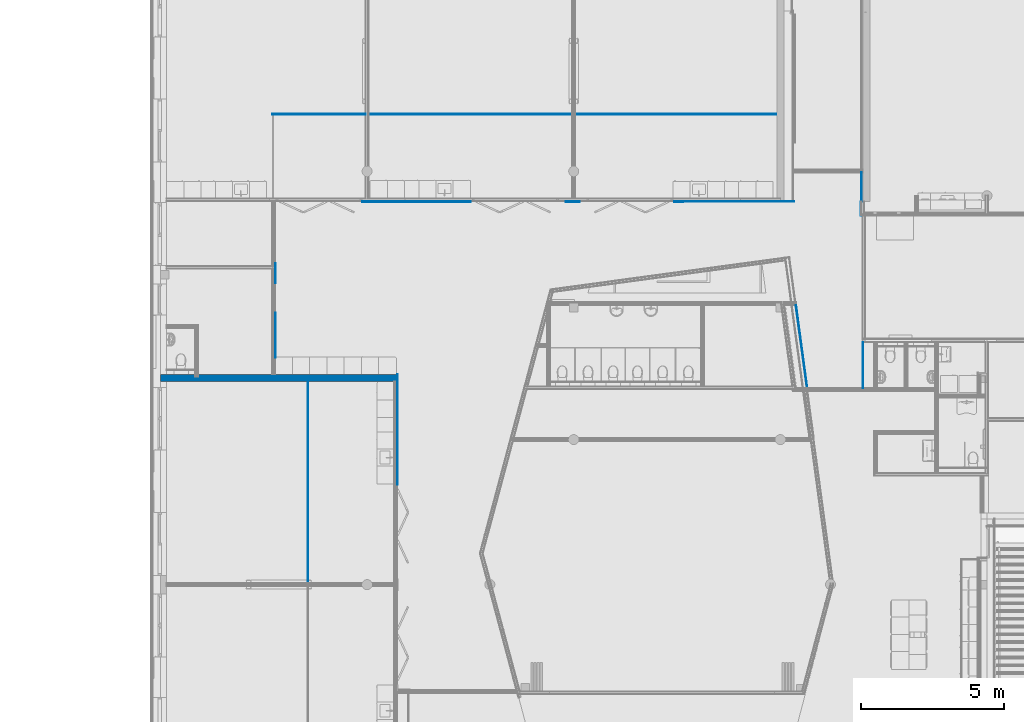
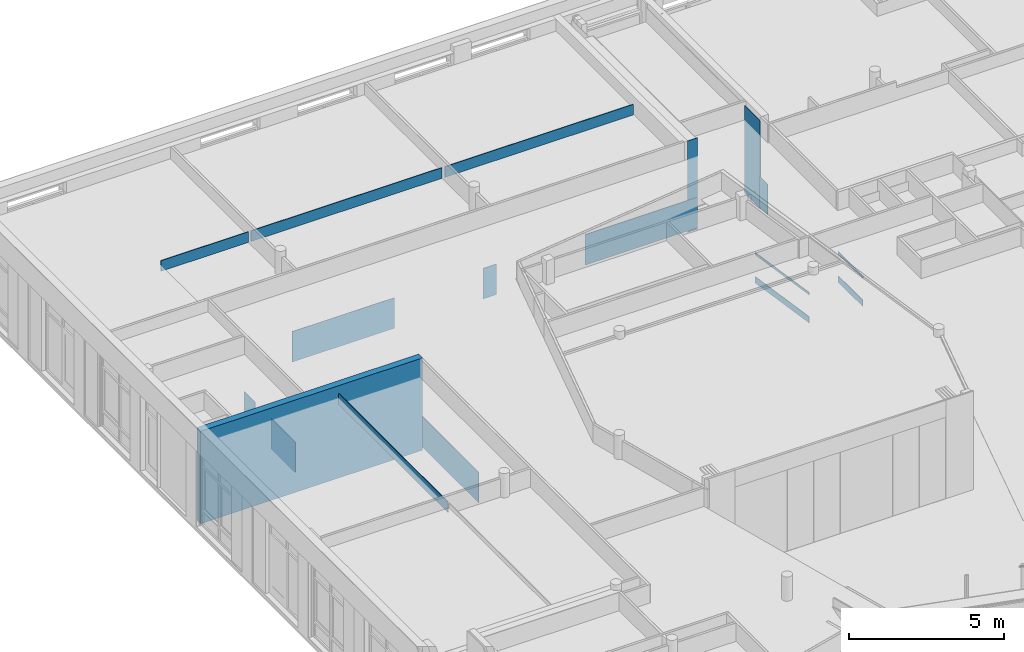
# One storey, part 17 of 167: 18 walls.
"""IFC2X3 building model written with IfcOpenShell, lengths in millimetres."""

from ifc_helpers import new_model, entity, si_unit, converted_unit, derived_unit, money_unit, direction, frame, origin_with_axes, place, context, subcontext, project, spatial, faceted_brep, material, type_object, element, save


model = new_model("IFC2X3")

# Units and contexts
model_context = context("Model", 3, precision=0.01, world=origin_with_axes(), true_north=direction((0.0, 1.0)))
plan_context = context("Plan", 3, precision=0.01, world=origin_with_axes(), true_north=direction((0.0, 1.0)))
body_context = subcontext(model_context, "Body", "Model", "MODEL_VIEW")
ifc_project = project(units=[si_unit("LENGTHUNIT", "METRE", prefix="MILLI"), si_unit("AREAUNIT", "SQUARE_METRE"), si_unit("VOLUMEUNIT", "CUBIC_METRE"), converted_unit("PLANEANGLEUNIT", "DEGREE", entity("IfcPlaneAngleMeasure", 0.0174532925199), si_unit("PLANEANGLEUNIT", "RADIAN"), dimensions=[0, 0, 0, 0, 0, 0, 0]), si_unit("SOLIDANGLEUNIT", "STERADIAN"), money_unit("EUR"), converted_unit("TIMEUNIT", "Year", entity("IfcTimeMeasure", 31556926.0), si_unit("TIMEUNIT", "SECOND"), dimensions=[0, 0, 1, 0, 0, 0, 0]), si_unit("MASSUNIT", "GRAM", prefix="KILO"), si_unit("THERMODYNAMICTEMPERATUREUNIT", "DEGREE_CELSIUS"), si_unit("LUMINOUSINTENSITYUNIT", "LUMEN"), si_unit("ENERGYUNIT", "JOULE", prefix="MEGA"), derived_unit("THERMALCONDUCTANCEUNIT", [(si_unit("POWERUNIT", "WATT"), 1), (si_unit("LENGTHUNIT", "METRE"), -1), (si_unit("THERMODYNAMICTEMPERATUREUNIT", "KELVIN"), -1)]), derived_unit("SPECIFICHEATCAPACITYUNIT", [(si_unit("ENERGYUNIT", "JOULE"), 1), (si_unit("MASSUNIT", "GRAM", prefix="KILO"), -1), (si_unit("THERMODYNAMICTEMPERATUREUNIT", "KELVIN"), -1)]), derived_unit("MASSDENSITYUNIT", [(si_unit("MASSUNIT", "GRAM", prefix="KILO"), 1), (si_unit("VOLUMEUNIT", "CUBIC_METRE"), -1)])], contexts=[model_context, plan_context])

# Site, building, storey
site_placement = place(None, origin_with_axes())
site = spatial("IfcSite", under=ifc_project, at=site_placement, Name="Site", CompositionType="ELEMENT")
building_placement = place(site_placement, origin_with_axes())
building = spatial("IfcBuilding", under=site, at=building_placement, Name="Naam gebouw", CompositionType="ELEMENT")
storey_placement = place(building_placement, origin_with_axes())
storey = spatial("IfcBuildingStorey", under=building, at=storey_placement, Name="Begane grond", CompositionType="ELEMENT", Elevation=0.0)

# Walls
ifc_material_1 = material(Name="_TenW_21_Hout betimmering")
wall_type_1 = type_object("IfcWallType", Name="_TenW_22_Spouwmuur ht-150-kz RC 0 60", PredefinedType="NOTDEFINED")
wall_1_placement = place(storey_placement, frame((24475.0000092, 43200.0, -100.0), z_axis=(0.0, 0.0, 1.0), x_axis=(0.0, -1.0, 0.0)))
element("IfcWall", 1, at=wall_1_placement, inside=storey, type_object=wall_type_1, material=ifc_material_1, Name="21_Wand_Wand-x", context=body_context, shape_type="Brep", body=[
    faceted_brep([(1060.1483593, -40.0, 3480.00000224), (1060.1483593, -40.0, 30.0), (37.4999998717, -40.0, 30.0), (37.4999998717, -40.0, 3480.00000224), (1060.1483593, -60.0, 3480.00000224), (1060.1483593, -60.0, 30.0), (37.4999998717, -60.0, 30.0), (37.4999998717, -60.0, 3480.00000224)], [[[0, 1, 2, 3]], [[4, 5, 1, 0]], [[5, 6, 2, 1]], [[3, 2, 6, 7]], [[4, 0, 3, 7]], [[7, 6, 5, 4]]]),
])
ifc_material_2 = material(Name="ALG - CONSTRUCTIEF")
wall_type_2 = type_object("IfcWallType", Name="ALG - CONSTRUCTIEF 250", PredefinedType="NOTDEFINED")
wall_2_placement = place(storey_placement, frame((5.0, 36000.0, -100.0), z_axis=(0.0, 0.0, 1.0), x_axis=(1.0, 0.0, 0.0)))
element("IfcWall", 2, at=wall_2_placement, inside=storey, type_object=wall_type_2, material=ifc_material_2, Name="22_Wand_Wand-x", context=body_context, shape_type="Brep", body=[
    faceted_brep([(0.0, 125.0, 0.0), (8245.0, 125.0, 0.0), (8245.0, -125.0, 0.0), (0.0, -125.0, 0.0), (0.0, 125.0, 3630.0), (8245.0, 125.0, 3630.0), (8245.0, -125.0, 3630.0), (0.0, -125.0, 3630.0)], [[[0, 1, 2, 3]], [[4, 5, 1, 0]], [[2, 1, 5, 6]], [[3, 2, 6, 7]], [[4, 0, 3, 7]], [[7, 6, 5, 4]]]),
])
ifc_material_3 = material(Name="Hout - Spaanplaat")
wall_type_3 = type_object("IfcWallType", Name="Hout - Spaanplaat 25", PredefinedType="NOTDEFINED")
wall_3_placement = place(storey_placement, frame((5125.0, 35875.0, 2810.0), z_axis=(0.0, 0.0, 1.0), x_axis=(0.0, -1.0, 0.0)))
element("IfcWall", 3, at=wall_3_placement, inside=storey, type_object=wall_type_3, material=ifc_material_3, Name="21_Wand_Wand-x", context=body_context, shape_type="Brep", body=[
    faceted_brep([(0.0, 0.0, 420.0), (7037.5, 0.0, 420.0), (7037.5, 25.0, 420.0), (0.0, 25.0, 420.0), (0.0, 0.0, 0.0), (7037.5, 0.0, 0.0), (7037.5, 25.0, 0.0), (0.0, 25.0, 0.0)], [[[0, 1, 2, 3]], [[4, 5, 1, 0]], [[5, 6, 2, 1]], [[3, 2, 6, 7]], [[4, 0, 3, 7]], [[7, 6, 5, 4]]]),
])
wall_4_placement = place(storey_placement, frame((21450.0, 45200.0, 2810.0), z_axis=(0.0, 0.0, 1.0), x_axis=(-1.0, 0.0, 0.0)))
element("IfcWall", 4, at=wall_4_placement, inside=storey, type_object=wall_type_3, material=ifc_material_3, Name="21_Wand_Wand-x", context=body_context, shape_type="Brep", body=[
    faceted_brep([(0.0, 25.0, 0.0), (7000.0, 25.0, 0.0), (7000.0, 0.0, 0.0), (0.0, 0.0, 0.0), (0.0, 25.0, 420.0), (7000.0, 25.0, 420.0), (7000.0, 0.0, 420.0), (0.0, 0.0, 420.0)], [[[0, 1, 2, 3]], [[4, 5, 1, 0]], [[2, 1, 5, 6]], [[3, 2, 6, 7]], [[4, 0, 3, 7]], [[7, 6, 5, 4]]]),
])
wall_5_placement = place(storey_placement, frame((14350.0, 45200.0, 2810.0), z_axis=(0.0, 0.0, 1.0), x_axis=(-1.0, 0.0, 0.0)))
element("IfcWall", 5, at=wall_5_placement, inside=storey, type_object=wall_type_3, material=ifc_material_3, Name="21_Wand_Wand-x", context=body_context, shape_type="Brep", body=[
    faceted_brep([(0.0, 25.0, 0.0), (7100.0, 25.0, 0.0), (7100.0, 0.0, 0.0), (0.0, 0.0, 0.0), (0.0, 25.0, 420.0), (7100.0, 25.0, 420.0), (7100.0, 0.0, 420.0), (0.0, 0.0, 420.0)], [[[0, 1, 2, 3]], [[4, 5, 1, 0]], [[2, 1, 5, 6]], [[3, 2, 6, 7]], [[4, 0, 3, 7]], [[7, 6, 5, 4]]]),
])
wall_6_placement = place(storey_placement, frame((7150.0, 45200.0, 2810.0), z_axis=(0.0, 0.0, 1.0), x_axis=(-1.0, 0.0, 0.0)))
element("IfcWall", 6, at=wall_6_placement, inside=storey, type_object=wall_type_3, material=ifc_material_3, Name="21_Wand_Wand-x", context=body_context, shape_type="Brep", body=[
    faceted_brep([(0.0, 25.0, 0.0), (3250.85589939, 25.0, 0.0), (3250.85589939, 0.0, 0.0), (0.0, 0.0, 0.0), (0.0, 25.0, 420.0), (3250.85589939, 25.0, 420.0), (3250.85589939, 0.0, 420.0), (0.0, 0.0, 420.0)], [[[0, 1, 2, 3]], [[4, 5, 1, 0]], [[2, 1, 5, 6]], [[3, 2, 6, 7]], [[4, 0, 3, 7]], [[7, 6, 5, 4]]]),
])
ifc_material_4 = material(Name="Gipsplaat")
wall_type_4 = type_object("IfcWallType", Name="Gipsplaat 12", PredefinedType="NOTDEFINED")
wall_7_placement = place(storey_placement, frame((21725.0, 42149.0, -100.0), z_axis=(0.0, 0.0, 1.0), x_axis=(1.0, 0.0, 0.0)))
element("IfcWall", 7, at=wall_7_placement, inside=storey, type_object=wall_type_4, material=ifc_material_4, Name="21_Wand_Wand-x", context=body_context, shape_type="Brep", body=[
    faceted_brep([(0.0, 13.0, 30.0), (0.0, 13.0, 3630.0), (360.0, 13.0, 3630.0), (360.0, 13.0, 30.0), (0.0, 0.999999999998, 30.0), (0.0, 0.999999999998, 3630.0), (360.0, 0.999999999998, 3630.0), (360.0, 0.999999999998, 30.0)], [[[0, 1, 2, 3]], [[4, 5, 1, 0]], [[5, 6, 2, 1]], [[3, 2, 6, 7]], [[4, 0, 3, 7]], [[7, 6, 5, 4]]]),
])
wall_type_5 = type_object("IfcWallType", Name="Hout - Spaanplaat 20", PredefinedType="NOTDEFINED")
wall_8_placement = place(storey_placement, frame((24415.0000092, 41650.0, 0.0), z_axis=(0.0, 0.0, 1.0), x_axis=(0.0, 1.0, 0.0)))
element("IfcWall", 8, at=wall_8_placement, inside=storey, type_object=wall_type_5, material=ifc_material_3, Name="21_Wand_Wand-x", context=body_context, shape_type="Brep", body=[
    faceted_brep([(0.0, 20.0, 0.0), (489.851640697, 20.0, 0.0), (489.851640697, 0.0, 0.0), (0.0, 0.0, 0.0), (0.0, 20.0, 1200.0), (489.851640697, 20.0, 1200.0), (489.851640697, 0.0, 1200.0), (0.0, 0.0, 1200.0)], [[[0, 1, 2, 3]], [[4, 5, 1, 0]], [[2, 1, 5, 6]], [[3, 2, 6, 7]], [[4, 0, 3, 7]], [[7, 6, 5, 4]]]),
])
wall_9_placement = place(storey_placement, frame((22085.0, 42162.0, 0.0), z_axis=(0.0, 0.0, 1.0), x_axis=(-0.999995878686, -0.00287099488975, 0.0)))
element("IfcWall", 9, at=wall_9_placement, inside=storey, type_object=wall_type_5, material=ifc_material_3, Name="21_Wand_Wand-x", context=body_context, shape_type="Brep", body=[
    faceted_brep([(0.0, 20.0, 0.0), (4179.73575741, 20.0, 0.0), (4179.73575741, 0.0, 0.0), (0.0, 0.0, 0.0), (0.0, 20.0, 1200.0), (4179.73575741, 20.0, 1200.0), (4179.73575741, 0.0, 1200.0), (0.0, 0.0, 1200.0)], [[[0, 1, 2, 3]], [[4, 5, 1, 0]], [[2, 1, 5, 6]], [[3, 2, 6, 7]], [[4, 0, 3, 7]], [[7, 6, 5, 4]]]),
])
wall_10_placement = place(storey_placement, frame((14605.2814686, 42150.0, 0.0), z_axis=(0.0, 0.0, 1.0), x_axis=(-1.0, 0.0, 0.0)))
element("IfcWall", 10, at=wall_10_placement, inside=storey, type_object=wall_type_5, material=ifc_material_3, Name="21_Wand_Wand-x", context=body_context, shape_type="Brep", body=[
    faceted_brep([(0.0, 20.0, 0.0), (490.2814686, 20.0, 0.0), (490.2814686, 0.0, 0.0), (0.0, 0.0, 0.0), (0.0, 20.0, 1200.0), (490.2814686, 20.0, 1200.0), (490.2814686, 0.0, 1200.0), (0.0, 0.0, 1200.0)], [[[0, 1, 2, 3]], [[4, 5, 1, 0]], [[2, 1, 5, 6]], [[3, 2, 6, 7]], [[4, 0, 3, 7]], [[7, 6, 5, 4]]]),
])
wall_11_placement = place(storey_placement, frame((10815.0, 42150.0, 0.0), z_axis=(0.0, 0.0, 1.0), x_axis=(-1.0, 0.0, 0.0)))
element("IfcWall", 11, at=wall_11_placement, inside=storey, type_object=wall_type_5, material=ifc_material_3, Name="21_Wand_Wand-x", context=body_context, shape_type="Brep", body=[
    faceted_brep([(0.0, 20.0, 0.0), (3790.0, 20.0, 0.0), (3790.0, 0.0, 0.0), (0.0, 0.0, 0.0), (0.0, 20.0, 1200.0), (3790.0, 20.0, 1200.0), (3790.0, 0.0, 1200.0), (0.0, 0.0, 1200.0)], [[[0, 1, 2, 3]], [[4, 5, 1, 0]], [[2, 1, 5, 6]], [[3, 2, 6, 7]], [[4, 0, 3, 7]], [[7, 6, 5, 4]]]),
])
wall_12_placement = place(storey_placement, frame((4000.0, 40000.0, 0.0), z_axis=(0.0, 0.0, 1.0), x_axis=(0.0, -1.0, 0.0)))
element("IfcWall", 12, at=wall_12_placement, inside=storey, type_object=wall_type_5, material=ifc_material_3, Name="21_Wand_Wand-x", context=body_context, shape_type="Brep", body=[
    faceted_brep([(0.0, 20.0, 0.0), (700.0, 20.0, 0.0), (700.0, 0.0, 0.0), (0.0, 0.0, 0.0), (0.0, 20.0, 1200.0), (700.0, 20.0, 1200.0), (700.0, 0.0, 1200.0), (0.0, 0.0, 1200.0)], [[[0, 1, 2, 3]], [[4, 5, 1, 0]], [[2, 1, 5, 6]], [[3, 2, 6, 7]], [[4, 0, 3, 7]], [[7, 6, 5, 4]]]),
])
wall_13_placement = place(storey_placement, frame((4000.0, 38266.0, 2.0), z_axis=(0.0, 0.0, 1.0), x_axis=(0.0, -1.0, 0.0)))
element("IfcWall", 13, at=wall_13_placement, inside=storey, type_object=wall_type_5, material=ifc_material_3, Name="21_Wand_Wand-x", context=body_context, shape_type="Brep", body=[
    faceted_brep([(0.0, 20.0, 0.0), (1561.0, 20.0, 0.0), (1561.0, 0.0, 0.0), (0.0, 0.0, 0.0), (0.0, 20.0, 1200.0), (1561.0, 20.0, 1200.0), (1561.0, 0.0, 1200.0), (0.0, 0.0, 1200.0)], [[[0, 1, 2, 3]], [[4, 5, 1, 0]], [[2, 1, 5, 6]], [[3, 2, 6, 7]], [[4, 0, 3, 7]], [[7, 6, 5, 4]]]),
])
wall_14_placement = place(storey_placement, frame((8250.0, 36125.0, 17.9863027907), z_axis=(0.0, 0.0, 1.0), x_axis=(0.0, -1.0, 0.0)))
element("IfcWall", 14, at=wall_14_placement, inside=storey, type_object=wall_type_5, material=ifc_material_3, Name="21_Wand_Wand-x", context=body_context, shape_type="Brep", body=[
    faceted_brep([(0.0, 20.0, 0.0), (3850.0, 20.0, 0.0), (3850.0, 0.0, 0.0), (0.0, 0.0, 0.0), (0.0, 20.0, 1200.0), (3850.0, 20.0, 1200.0), (3850.0, 0.0, 1200.0), (0.0, 0.0, 1200.0)], [[[0, 1, 2, 3]], [[4, 5, 1, 0]], [[2, 1, 5, 6]], [[3, 2, 6, 7]], [[4, 0, 3, 7]], [[7, 6, 5, 4]]]),
])
ifc_material_5 = material(Name="_TenW_82_afw bamboe")
wall_type_6 = type_object("IfcWallType", Name="_TenW_82_afw bamboe 20", PredefinedType="NOTDEFINED")
wall_15_placement = place(storey_placement, frame((22540.4582594, 35709.8573975, 0.0), z_axis=(0.0, 0.0, 1.0), x_axis=(-0.134213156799, 0.990952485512, 0.0)))
element("IfcWall", 15, at=wall_15_placement, inside=storey, type_object=wall_type_6, material=ifc_material_5, Name="21_Wand_Wand-x", context=body_context, shape_type="Brep", body=[
    faceted_brep([(0.0, 20.0, 0.0), (2858.02858193, 20.0, 0.0), (2858.02858193, 0.0, 0.0), (0.0, 0.0, 0.0), (0.0, 20.0, 250.0), (2858.02858193, 20.0, 250.0), (2858.02858193, 0.0, 250.0), (0.0, 0.0, 250.0)], [[[0, 1, 2, 3]], [[4, 5, 1, 0]], [[2, 1, 5, 6]], [[3, 2, 6, 7]], [[4, 0, 3, 7]], [[7, 6, 5, 4]]]),
])
wall_16_placement = place(storey_placement, frame((22540.4582594, 35709.8573975, 1100.0), z_axis=(0.0, 0.0, 1.0), x_axis=(-0.134213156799, 0.990952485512, 0.0)))
element("IfcWall", 16, at=wall_16_placement, inside=storey, type_object=wall_type_6, material=ifc_material_5, Name="21_Wand_Wand-x", context=body_context, shape_type="Brep", body=[
    faceted_brep([(0.0, 20.0, 0.0), (2858.02858193, 20.0, 0.0), (2858.02858193, 0.0, 0.0), (0.0, 0.0, 0.0), (0.0, 20.0, 100.0), (2858.02858193, 20.0, 100.0), (2858.02858193, 0.0, 100.0), (0.0, 0.0, 100.0)], [[[0, 1, 2, 3]], [[4, 5, 1, 0]], [[2, 1, 5, 6]], [[3, 2, 6, 7]], [[4, 0, 3, 7]], [[7, 6, 5, 4]]]),
])
wall_17_placement = place(storey_placement, frame((24475.0000525, 35656.3531404, 0.0), z_axis=(0.0, 0.0, 1.0), x_axis=(0.0, 1.0, 0.0)))
element("IfcWall", 17, at=wall_17_placement, inside=storey, type_object=wall_type_6, material=ifc_material_5, Name="21_Wand_Wand-x", context=body_context, shape_type="Brep", body=[
    faceted_brep([(0.0, -20.0, 250.0), (1573.6468596, -20.0, 250.0), (1573.6468596, 0.0, 250.0), (0.0, 0.0, 250.0), (0.0, -20.0, 0.0), (1573.6468596, -20.0, 0.0), (1573.6468596, 0.0, 0.0), (0.0, 0.0, 0.0)], [[[0, 1, 2, 3]], [[4, 5, 1, 0]], [[2, 1, 5, 6]], [[3, 2, 6, 7]], [[4, 0, 3, 7]], [[7, 6, 5, 4]]]),
])
wall_18_placement = place(storey_placement, frame((24475.0000525, 35636.3531404, 1100.0), z_axis=(0.0, 0.0, 1.0), x_axis=(0.0, 1.0, 0.0)))
element("IfcWall", 18, at=wall_18_placement, inside=storey, type_object=wall_type_6, material=ifc_material_5, Name="21_Wand_Wand-x", context=body_context, shape_type="Brep", body=[
    faceted_brep([(0.0, -20.0, 100.0), (1613.6468596, -20.0, 100.0), (1613.6468596, 0.0, 100.0), (0.0, 0.0, 100.0), (0.0, -20.0, 0.0), (1613.6468596, -20.0, 0.0), (1613.6468596, 0.0, 0.0), (0.0, 0.0, 0.0)], [[[0, 1, 2, 3]], [[4, 5, 1, 0]], [[2, 1, 5, 6]], [[3, 2, 6, 7]], [[4, 0, 3, 7]], [[7, 6, 5, 4]]]),
])

save(model, "model.ifc")
